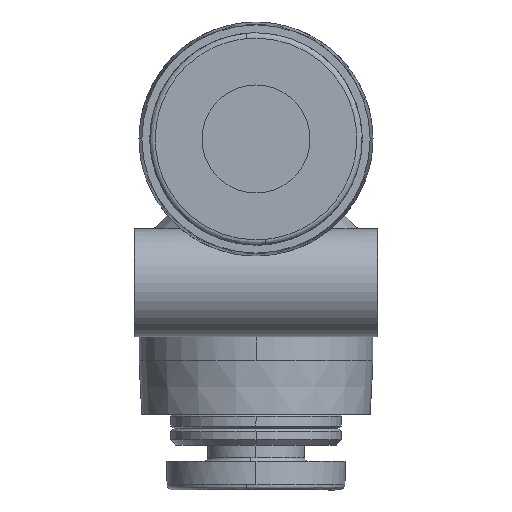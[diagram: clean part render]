
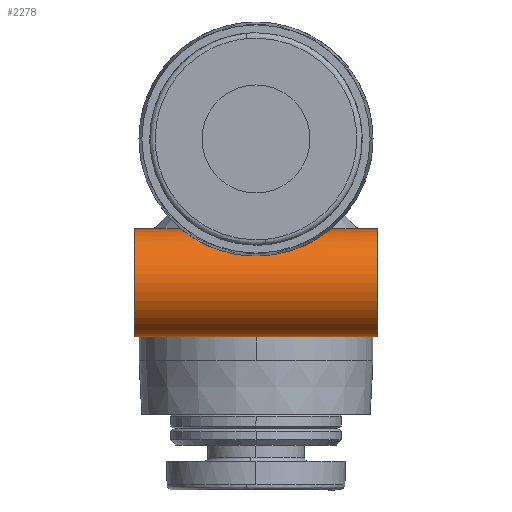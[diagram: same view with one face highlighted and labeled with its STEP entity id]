
A CAD part, left-side view. The second image highlights one B-rep face of the part: STEP entity #2278.
In plain terms, the highlighted cylindrical face has radius 3 mm (diameter 6 mm), a partial arc.
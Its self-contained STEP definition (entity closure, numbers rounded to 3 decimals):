
#39 = CARTESIAN_POINT ( 'NONE',  ( -10.421, 1.88, -6.226 ) ) ;
#40 = CARTESIAN_POINT ( 'NONE',  ( -8., 6.75, -5. ) ) ;
#175 = DIRECTION ( 'NONE',  ( 0., 0., 1. ) ) ;
#291 = CARTESIAN_POINT ( 'NONE',  ( -8.929, -3.982, -5.138 ) ) ;
#331 = ORIENTED_EDGE ( 'NONE', *, *, #4262, .T. ) ;
#346 = CARTESIAN_POINT ( 'NONE',  ( -10.045, -2.94, -5.801 ) ) ;
#688 = CARTESIAN_POINT ( 'NONE',  ( -9.668, 3.469, -5.501 ) ) ;
#691 = CARTESIAN_POINT ( 'NONE',  ( -8.483, -4.117, -5.03 ) ) ;
#708 = CARTESIAN_POINT ( 'NONE',  ( -8., 6.75, -11. ) ) ;
#850 = VERTEX_POINT ( 'NONE', #4282 ) ;
#853 = DIRECTION ( 'NONE',  ( 0., -1., 0. ) ) ;
#920 = CARTESIAN_POINT ( 'NONE',  ( -8., -6.75, -5. ) ) ;
#967 = CARTESIAN_POINT ( 'NONE',  ( -9.505, -3.626, -5.397 ) ) ;
#987 = CARTESIAN_POINT ( 'NONE',  ( -8., -6.75, -5. ) ) ;
#1049 = CARTESIAN_POINT ( 'NONE',  ( -9.508, 3.624, -5.399 ) ) ;
#1071 = CARTESIAN_POINT ( 'NONE',  ( -9.141, 3.879, -5.218 ) ) ;
#1094 = CARTESIAN_POINT ( 'NONE',  ( -10.467, 1.65, -6.291 ) ) ;
#1152 = VERTEX_POINT ( 'NONE', #708 ) ;
#1225 = CARTESIAN_POINT ( 'NONE',  ( -8., -6.75, -11. ) ) ;
#1301 = CARTESIAN_POINT ( 'NONE',  ( -10.231, -2.534, -5.99 ) ) ;
#1347 = CARTESIAN_POINT ( 'NONE',  ( -8.24, -4.153, -5. ) ) ;
#1405 = CARTESIAN_POINT ( 'NONE',  ( -10.598, 0.483, -6.5 ) ) ;
#1430 = CARTESIAN_POINT ( 'NONE',  ( -10.598, 0., -6.5 ) ) ;
#1453 = CARTESIAN_POINT ( 'NONE',  ( -9.936, 3.126, -5.702 ) ) ;
#1543 = CARTESIAN_POINT ( 'NONE',  ( -8., -6.75, -8. ) ) ;
#1544 = VERTEX_POINT ( 'NONE', #40 ) ;
#1590 = LINE ( 'NONE', #920, #3163 ) ;
#1597 = LINE ( 'NONE', #3693, #4215 ) ;
#1621 = ORIENTED_EDGE ( 'NONE', *, *, #3906, .T. ) ;
#1667 = B_SPLINE_CURVE_WITH_KNOTS ( 'NONE', 3,
 ( #4209, #3479, #3143, #2814, #1071, #1049, #688, #1453, #2454, #2836, #2763, #39, #1094, #1699, #1405, #1430 ),
 .UNSPECIFIED., .F., .F.,
 ( 4, 2, 2, 2, 2, 2, 2, 4 ),
 ( 0.003, 0.004, 0.004, 0.005, 0.006, 0.006, 0.007, 0.009 ),
 .UNSPECIFIED. ) ;
#1679 = CARTESIAN_POINT ( 'NONE',  ( -10.421, -1.884, -6.225 ) ) ;
#1699 = CARTESIAN_POINT ( 'NONE',  ( -10.57, 0.956, -6.447 ) ) ;
#1734 = CARTESIAN_POINT ( 'NONE',  ( -9.139, -3.88, -5.217 ) ) ;
#1796 = FACE_OUTER_BOUND ( 'NONE', #2985, .T. ) ;
#1874 = VERTEX_POINT ( 'NONE', #1225 ) ;
#1925 = VECTOR ( 'NONE', #3737, 1000. ) ;
#2252 = EDGE_CURVE ( 'NONE', #3160, #2378, #1667, .T. ) ;
#2274 = AXIS2_PLACEMENT_3D ( 'NONE', #3799, #3075, #4458 ) ;
#2278 = ADVANCED_FACE ( '37', ( #1796 ), #3773, .T. ) ;
#2378 = VERTEX_POINT ( 'NONE', #3227 ) ;
#2404 = AXIS2_PLACEMENT_3D ( 'NONE', #1543, #3270, #175 ) ;
#2433 = AXIS2_PLACEMENT_3D ( 'NONE', #2572, #853, #4275 ) ;
#2454 = CARTESIAN_POINT ( 'NONE',  ( -10.048, 2.934, -5.804 ) ) ;
#2507 = EDGE_CURVE ( 'NONE', #1874, #4314, #3918, .T. ) ;
#2537 = ORIENTED_EDGE ( 'NONE', *, *, #2912, .F. ) ;
#2572 = CARTESIAN_POINT ( 'NONE',  ( -8., 6.75, -8. ) ) ;
#2587 = CARTESIAN_POINT ( 'NONE',  ( -8., 4.153, -5. ) ) ;
#2763 = CARTESIAN_POINT ( 'NONE',  ( -10.304, 2.32, -6.076 ) ) ;
#2814 = CARTESIAN_POINT ( 'NONE',  ( -8.931, 3.981, -5.139 ) ) ;
#2836 = CARTESIAN_POINT ( 'NONE',  ( -10.232, 2.531, -5.991 ) ) ;
#2899 = ORIENTED_EDGE ( 'NONE', *, *, #3960, .F. ) ;
#2912 = EDGE_CURVE ( 'NONE', #1874, #1152, #1597, .T. ) ;
#2970 = DIRECTION ( 'NONE',  ( 0., 1., 0. ) ) ;
#2985 = EDGE_LOOP ( 'NONE', ( #2537, #3344, #4025, #2899, #3315, #331, #1621 ) ) ;
#3013 = CARTESIAN_POINT ( 'NONE',  ( -10.57, -0.958, -6.447 ) ) ;
#3033 = B_SPLINE_CURVE_WITH_KNOTS ( 'NONE', 3,
 ( #3385, #3342, #3013, #4077, #1679, #4054, #1301, #346, #3778, #4442, #967, #1734, #291, #691, #1347, #4096 ),
 .UNSPECIFIED., .F., .F.,
 ( 4, 2, 2, 2, 2, 2, 2, 4 ),
 ( 0.009, 0.01, 0.011, 0.011, 0.012, 0.013, 0.014, 0.014 ),
 .UNSPECIFIED. ) ;
#3075 = DIRECTION ( 'NONE',  ( 0., 1., 0. ) ) ;
#3143 = CARTESIAN_POINT ( 'NONE',  ( -8.483, 4.118, -5.03 ) ) ;
#3160 = VERTEX_POINT ( 'NONE', #2587 ) ;
#3163 = VECTOR ( 'NONE', #2970, 1000. ) ;
#3227 = CARTESIAN_POINT ( 'NONE',  ( -10.598, 0., -6.5 ) ) ;
#3270 = DIRECTION ( 'NONE',  ( 0., 1., 0. ) ) ;
#3315 = ORIENTED_EDGE ( 'NONE', *, *, #2252, .F. ) ;
#3342 = CARTESIAN_POINT ( 'NONE',  ( -10.598, -0.483, -6.5 ) ) ;
#3344 = ORIENTED_EDGE ( 'NONE', *, *, #2507, .T. ) ;
#3385 = CARTESIAN_POINT ( 'NONE',  ( -10.598, 0., -6.5 ) ) ;
#3479 = CARTESIAN_POINT ( 'NONE',  ( -8.24, 4.153, -5. ) ) ;
#3693 = CARTESIAN_POINT ( 'NONE',  ( -8., -6.75, -11. ) ) ;
#3737 = DIRECTION ( 'NONE',  ( 0., 1., 0. ) ) ;
#3773 = CYLINDRICAL_SURFACE ( 'NONE', #2274, 3. ) ;
#3778 = CARTESIAN_POINT ( 'NONE',  ( -9.935, -3.129, -5.701 ) ) ;
#3796 = CIRCLE ( 'NONE', #2433, 3. ) ;
#3799 = CARTESIAN_POINT ( 'NONE',  ( -8., -6.75, -8. ) ) ;
#3906 = EDGE_CURVE ( 'NONE', #1544, #1152, #3796, .T. ) ;
#3918 = CIRCLE ( 'NONE', #2404, 3. ) ;
#3960 = EDGE_CURVE ( 'NONE', #2378, #850, #3033, .T. ) ;
#3969 = EDGE_CURVE ( 'NONE', #4314, #850, #4120, .T. ) ;
#4025 = ORIENTED_EDGE ( 'NONE', *, *, #3969, .T. ) ;
#4034 = CARTESIAN_POINT ( 'NONE',  ( -8., -6.75, -5. ) ) ;
#4054 = CARTESIAN_POINT ( 'NONE',  ( -10.303, -2.323, -6.075 ) ) ;
#4077 = CARTESIAN_POINT ( 'NONE',  ( -10.466, -1.656, -6.29 ) ) ;
#4096 = CARTESIAN_POINT ( 'NONE',  ( -8., -4.153, -5. ) ) ;
#4120 = LINE ( 'NONE', #4034, #1925 ) ;
#4209 = CARTESIAN_POINT ( 'NONE',  ( -8., 4.153, -5. ) ) ;
#4215 = VECTOR ( 'NONE', #4333, 1000. ) ;
#4262 = EDGE_CURVE ( 'NONE', #3160, #1544, #1590, .T. ) ;
#4275 = DIRECTION ( 'NONE',  ( 0., 0., 1. ) ) ;
#4282 = CARTESIAN_POINT ( 'NONE',  ( -8., -4.153, -5. ) ) ;
#4314 = VERTEX_POINT ( 'NONE', #987 ) ;
#4333 = DIRECTION ( 'NONE',  ( 0., 1., 0. ) ) ;
#4442 = CARTESIAN_POINT ( 'NONE',  ( -9.666, -3.471, -5.499 ) ) ;
#4458 = DIRECTION ( 'NONE',  ( 0., 0., 1. ) ) ;
